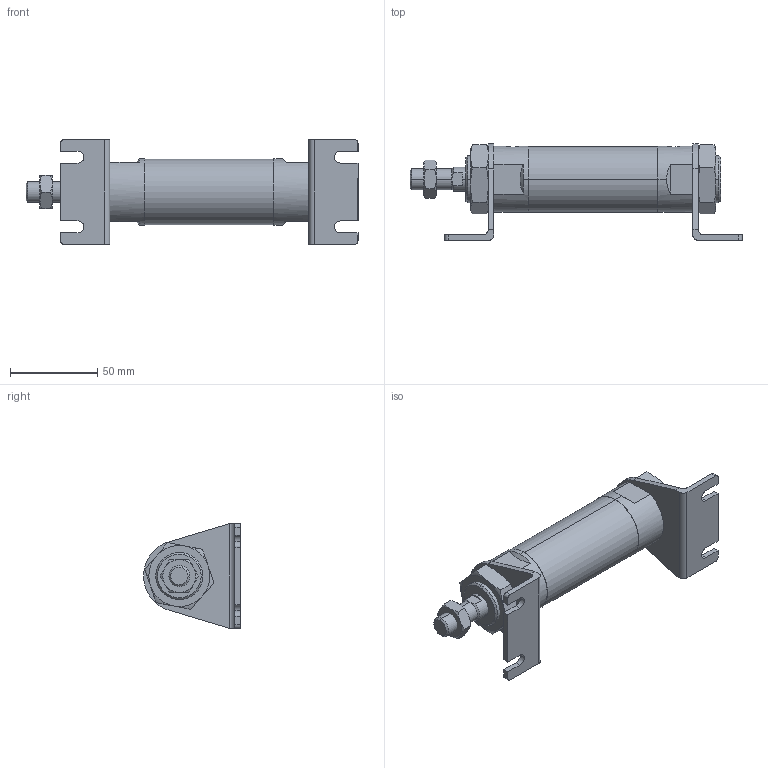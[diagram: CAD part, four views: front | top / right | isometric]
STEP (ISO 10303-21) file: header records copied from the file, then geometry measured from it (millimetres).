
FILE_DESCRIPTION (( 'STEP AP203' ), '1' );
FILE_NAME ('J#2-32-25-L.STEP', '2016-03-10T00:56:32', ( '' ), ( '' ), 'SwSTEP 2.0', 'SolidWorks 2014', '' );
FILE_SCHEMA (( 'CONFIG_CONTROL_DESIGN' ));
Length unit declared in the file: millimetre
Products named in the file (5): J#2-32-L; J#2-32-25; J#2-32-25-L
Assembly tree (6 placements, depth 2):
  J#2-32-25-L
    J#2-32-25
    (unnamed)
    (unnamed)  x2
    J#2-32-L  x2
Bounding box: 190.2 x 55.5 x 60 mm (x, y, z)
Volume: 179237.6 mm3; surface area: 43242 mm2
Topology: 6 solids, 6 shells, 170 faces, 404 edges, 249 vertices
Faces by surface type: plane 71, cylinder 48, torus 36, cone 15
Entity records: 4479 total; most frequent: CARTESIAN_POINT 1189, DIRECTION 578, ORIENTED_EDGE 558, EDGE_CURVE 279, AXIS2_PLACEMENT_3D 232, VERTEX_POINT 173, EDGE_LOOP 134, ADVANCED_FACE 121
